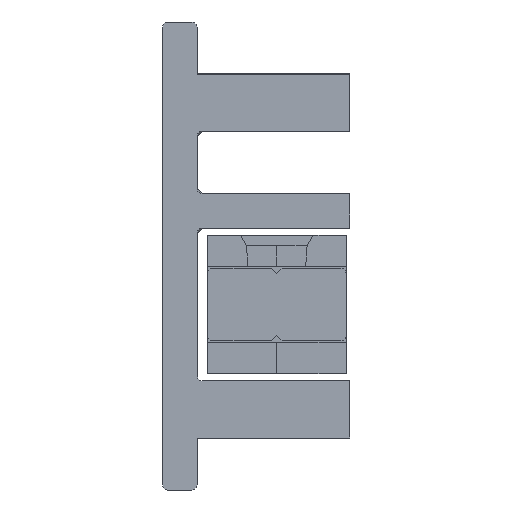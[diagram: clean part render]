
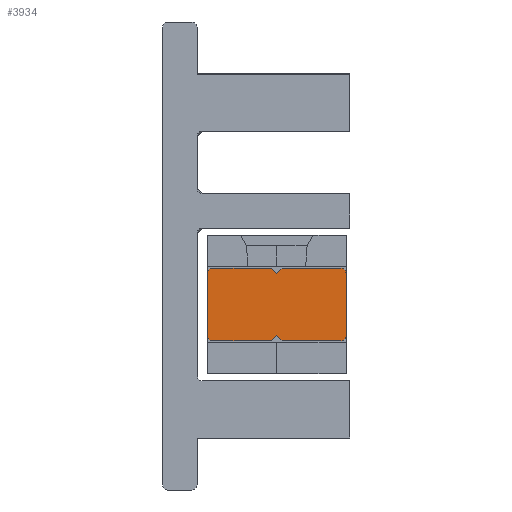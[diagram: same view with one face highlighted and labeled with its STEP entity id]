
A CAD part, front view. The second image highlights one B-rep face of the part: STEP entity #3934.
In plain terms, the highlighted planar face has unit normal (0, -1, 0) as drawn and (0, 0, 1) by its records, which use the part's own axes.
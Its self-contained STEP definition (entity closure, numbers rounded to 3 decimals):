
#5 = DIRECTION ( 'NONE',  ( 0., -1., 0. ) ) ;
#76 = DIRECTION ( 'NONE',  ( -0.707, 0.707, 0. ) ) ;
#136 = AXIS2_PLACEMENT_3D ( 'NONE', #368, #4222, #3740 ) ;
#181 = CARTESIAN_POINT ( 'NONE',  ( 0.3, 0., 2795. ) ) ;
#192 = VERTEX_POINT ( 'NONE', #4090 ) ;
#235 = VECTOR ( 'NONE', #5394, 1000. ) ;
#245 = CARTESIAN_POINT ( 'NONE',  ( 4.2, 3.7, 2795. ) ) ;
#255 = VERTEX_POINT ( 'NONE', #2281 ) ;
#303 = CARTESIAN_POINT ( 'NONE',  ( 4.2, 7.7, 2795. ) ) ;
#368 = CARTESIAN_POINT ( 'NONE',  ( 0.3, 0.3, 2795. ) ) ;
#375 = CARTESIAN_POINT ( 'NONE',  ( 0.3, 4., 2795. ) ) ;
#435 = ORIENTED_EDGE ( 'NONE', *, *, #5161, .F. ) ;
#477 = LINE ( 'NONE', #6280, #3998 ) ;
#504 = ORIENTED_EDGE ( 'NONE', *, *, #3442, .F. ) ;
#560 = CARTESIAN_POINT ( 'NONE',  ( 3.9, 7.7, 2795. ) ) ;
#593 = CARTESIAN_POINT ( 'NONE',  ( 4.2, 7.7, 2795. ) ) ;
#594 = DIRECTION ( 'NONE',  ( 0., 0., -1. ) ) ;
#611 = PLANE ( 'NONE',  #3496 ) ;
#790 = VERTEX_POINT ( 'NONE', #4651 ) ;
#829 = VECTOR ( 'NONE', #1485, 1000. ) ;
#979 = LINE ( 'NONE', #4296, #2736 ) ;
#1039 = CARTESIAN_POINT ( 'NONE',  ( 3.9, 8., 2795. ) ) ;
#1078 = DIRECTION ( 'NONE',  ( 0., 1., 0. ) ) ;
#1081 = ORIENTED_EDGE ( 'NONE', *, *, #2616, .F. ) ;
#1083 = EDGE_CURVE ( 'NONE', #255, #1910, #4597, .T. ) ;
#1143 = CARTESIAN_POINT ( 'NONE',  ( 0.3, 8., 2795. ) ) ;
#1173 = ORIENTED_EDGE ( 'NONE', *, *, #1083, .F. ) ;
#1274 = ORIENTED_EDGE ( 'NONE', *, *, #2245, .F. ) ;
#1275 = VECTOR ( 'NONE', #6206, 1000. ) ;
#1417 = CARTESIAN_POINT ( 'NONE',  ( 4.2, 3.7, 2795. ) ) ;
#1485 = DIRECTION ( 'NONE',  ( 0.707, -0.707, 0. ) ) ;
#1535 = LINE ( 'NONE', #3471, #3475 ) ;
#1638 = VECTOR ( 'NONE', #4853, 1000. ) ;
#1732 = CIRCLE ( 'NONE', #136, 0.3 ) ;
#1859 = LINE ( 'NONE', #4421, #2228 ) ;
#1900 = ORIENTED_EDGE ( 'NONE', *, *, #5915, .F. ) ;
#1910 = VERTEX_POINT ( 'NONE', #5172 ) ;
#1947 = VECTOR ( 'NONE', #5299, 1000. ) ;
#1973 = CARTESIAN_POINT ( 'NONE',  ( 3.9, 4., 2795. ) ) ;
#1986 = ORIENTED_EDGE ( 'NONE', *, *, #3146, .F. ) ;
#2059 = EDGE_CURVE ( 'NONE', #790, #6103, #1732, .T. ) ;
#2076 = LINE ( 'NONE', #593, #235 ) ;
#2087 = DIRECTION ( 'NONE',  ( -1., 0., 0. ) ) ;
#2201 = VERTEX_POINT ( 'NONE', #1039 ) ;
#2224 = ORIENTED_EDGE ( 'NONE', *, *, #2581, .F. ) ;
#2228 = VECTOR ( 'NONE', #5, 1000. ) ;
#2245 = EDGE_CURVE ( 'NONE', #3612, #2201, #5369, .T. ) ;
#2274 = CARTESIAN_POINT ( 'NONE',  ( 3.9, 4., 2795. ) ) ;
#2281 = CARTESIAN_POINT ( 'NONE',  ( 4.2, 0.3, 2795. ) ) ;
#2292 = EDGE_LOOP ( 'NONE', ( #504, #1173, #1986, #2224, #3763, #435, #4582, #1274, #4753, #1081, #2664, #1900, #4510, #3125 ) ) ;
#2486 = DIRECTION ( 'NONE',  ( 0., 0., -1. ) ) ;
#2509 = CARTESIAN_POINT ( 'NONE',  ( 18.4, -31.4, 2795. ) ) ;
#2520 = VERTEX_POINT ( 'NONE', #303 ) ;
#2581 = EDGE_CURVE ( 'NONE', #3664, #6246, #3786, .T. ) ;
#2616 = EDGE_CURVE ( 'NONE', #6253, #4463, #979, .T. ) ;
#2664 = ORIENTED_EDGE ( 'NONE', *, *, #5794, .F. ) ;
#2702 = EDGE_CURVE ( 'NONE', #2201, #2520, #4806, .T. ) ;
#2736 = VECTOR ( 'NONE', #2887, 1000. ) ;
#2745 = EDGE_CURVE ( 'NONE', #5163, #3664, #4255, .T. ) ;
#2798 = CIRCLE ( 'NONE', #3538, 0.3 ) ;
#2841 = AXIS2_PLACEMENT_3D ( 'NONE', #4298, #4658, #3204 ) ;
#2887 = DIRECTION ( 'NONE',  ( 0., 1., 0. ) ) ;
#3125 = ORIENTED_EDGE ( 'NONE', *, *, #2059, .F. ) ;
#3146 = EDGE_CURVE ( 'NONE', #6246, #255, #2076, .T. ) ;
#3204 = DIRECTION ( 'NONE',  ( -1., 0., 0. ) ) ;
#3226 = CARTESIAN_POINT ( 'NONE',  ( 0., 0.3, 2795. ) ) ;
#3361 = CARTESIAN_POINT ( 'NONE',  ( 4.2, 4.3, 2795. ) ) ;
#3383 = VECTOR ( 'NONE', #2087, 1000. ) ;
#3396 = DIRECTION ( 'NONE',  ( -1., 0., 0. ) ) ;
#3442 = EDGE_CURVE ( 'NONE', #1910, #790, #4526, .T. ) ;
#3471 = CARTESIAN_POINT ( 'NONE',  ( 0., 7.7, 2795. ) ) ;
#3475 = VECTOR ( 'NONE', #1078, 1000. ) ;
#3489 = DIRECTION ( 'NONE',  ( 0., 1., 0. ) ) ;
#3496 = AXIS2_PLACEMENT_3D ( 'NONE', #2509, #5455, #3489 ) ;
#3538 = AXIS2_PLACEMENT_3D ( 'NONE', #6309, #2486, #3396 ) ;
#3612 = VERTEX_POINT ( 'NONE', #1143 ) ;
#3664 = VERTEX_POINT ( 'NONE', #2274 ) ;
#3740 = DIRECTION ( 'NONE',  ( -1., 0., 0. ) ) ;
#3763 = ORIENTED_EDGE ( 'NONE', *, *, #2745, .F. ) ;
#3786 = LINE ( 'NONE', #1417, #829 ) ;
#3791 = VERTEX_POINT ( 'NONE', #5309 ) ;
#3934 = ADVANCED_FACE ( 'NONE', ( #4649 ), #611, .F. ) ;
#3998 = VECTOR ( 'NONE', #76, 1000. ) ;
#4090 = CARTESIAN_POINT ( 'NONE',  ( 0., 3.7, 2795. ) ) ;
#4222 = DIRECTION ( 'NONE',  ( 0., 0., -1. ) ) ;
#4255 = LINE ( 'NONE', #1973, #1947 ) ;
#4275 = CARTESIAN_POINT ( 'NONE',  ( 0., 7.7, 2795. ) ) ;
#4296 = CARTESIAN_POINT ( 'NONE',  ( 0., 7.7, 2795. ) ) ;
#4298 = CARTESIAN_POINT ( 'NONE',  ( 3.9, 0.3, 2795. ) ) ;
#4421 = CARTESIAN_POINT ( 'NONE',  ( 4.2, 7.7, 2795. ) ) ;
#4451 = DIRECTION ( 'NONE',  ( -1., 0., 0. ) ) ;
#4463 = VERTEX_POINT ( 'NONE', #4275 ) ;
#4510 = ORIENTED_EDGE ( 'NONE', *, *, #4943, .F. ) ;
#4526 = LINE ( 'NONE', #181, #3383 ) ;
#4567 = EDGE_CURVE ( 'NONE', #4463, #3612, #2798, .T. ) ;
#4582 = ORIENTED_EDGE ( 'NONE', *, *, #2702, .F. ) ;
#4597 = CIRCLE ( 'NONE', #2841, 0.3 ) ;
#4649 = FACE_OUTER_BOUND ( 'NONE', #2292, .T. ) ;
#4651 = CARTESIAN_POINT ( 'NONE',  ( 0.3, 0., 2795. ) ) ;
#4658 = DIRECTION ( 'NONE',  ( 0., 0., -1. ) ) ;
#4697 = AXIS2_PLACEMENT_3D ( 'NONE', #560, #594, #4451 ) ;
#4753 = ORIENTED_EDGE ( 'NONE', *, *, #4567, .F. ) ;
#4806 = CIRCLE ( 'NONE', #4697, 0.3 ) ;
#4853 = DIRECTION ( 'NONE',  ( 1., 0., 0. ) ) ;
#4883 = CARTESIAN_POINT ( 'NONE',  ( 0.3, 8., 2795. ) ) ;
#4943 = EDGE_CURVE ( 'NONE', #6103, #192, #1535, .T. ) ;
#5056 = CARTESIAN_POINT ( 'NONE',  ( 0., 4.3, 2795. ) ) ;
#5161 = EDGE_CURVE ( 'NONE', #2520, #5163, #1859, .T. ) ;
#5163 = VERTEX_POINT ( 'NONE', #3361 ) ;
#5172 = CARTESIAN_POINT ( 'NONE',  ( 3.9, 0., 2795. ) ) ;
#5299 = DIRECTION ( 'NONE',  ( -0.707, -0.707, 0. ) ) ;
#5309 = CARTESIAN_POINT ( 'NONE',  ( 0.3, 4., 2795. ) ) ;
#5369 = LINE ( 'NONE', #4883, #1638 ) ;
#5394 = DIRECTION ( 'NONE',  ( 0., -1., 0. ) ) ;
#5455 = DIRECTION ( 'NONE',  ( 0., 0., -1. ) ) ;
#5774 = LINE ( 'NONE', #375, #1275 ) ;
#5794 = EDGE_CURVE ( 'NONE', #3791, #6253, #477, .T. ) ;
#5915 = EDGE_CURVE ( 'NONE', #192, #3791, #5774, .T. ) ;
#6103 = VERTEX_POINT ( 'NONE', #3226 ) ;
#6206 = DIRECTION ( 'NONE',  ( 0.707, 0.707, 0. ) ) ;
#6246 = VERTEX_POINT ( 'NONE', #245 ) ;
#6253 = VERTEX_POINT ( 'NONE', #5056 ) ;
#6280 = CARTESIAN_POINT ( 'NONE',  ( 0., 4.3, 2795. ) ) ;
#6309 = CARTESIAN_POINT ( 'NONE',  ( 0.3, 7.7, 2795. ) ) ;
